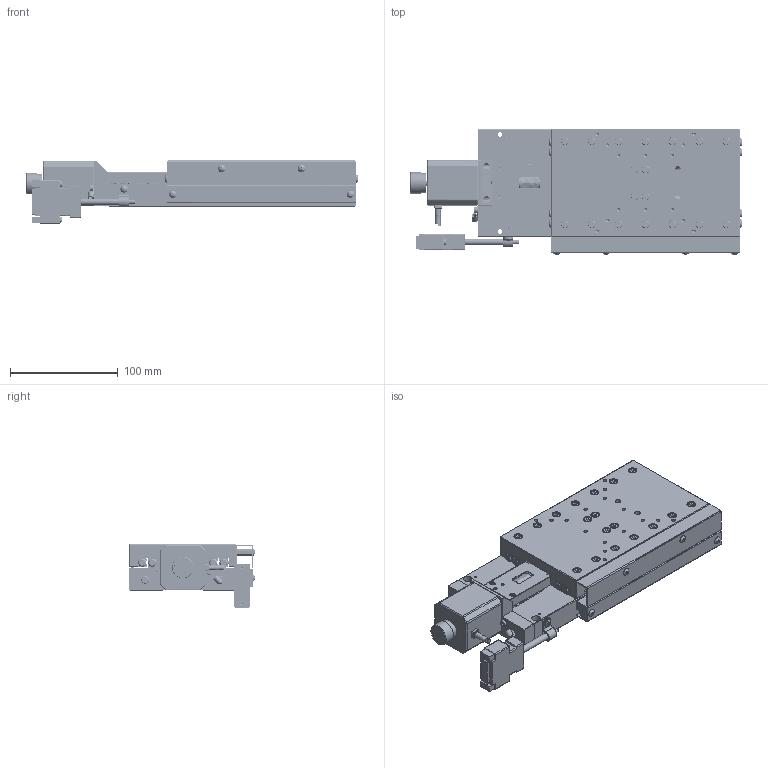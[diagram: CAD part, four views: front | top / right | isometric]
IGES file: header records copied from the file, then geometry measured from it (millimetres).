
Global section: file name: TAMM100-100C_IGES; native system: Autodesk Inventor 2015; preprocessor: unknown; author: kawashima; date: 20151222.135600; units: millimetre
Bounding box: 308 x 116.96 x 58.65 mm (x, y, z)
Volume: 872618.1 mm3; surface area: 234865.2 mm2
Topology: 4 solids, 102 shells, 2532 faces, 6482 edges, 4299 vertices
Faces by surface type: bspline 2532
